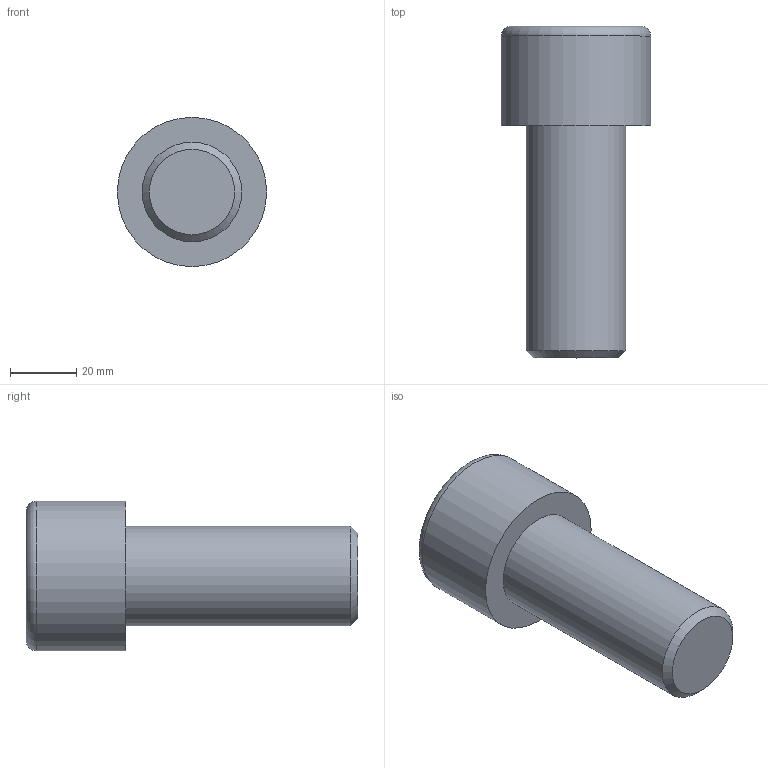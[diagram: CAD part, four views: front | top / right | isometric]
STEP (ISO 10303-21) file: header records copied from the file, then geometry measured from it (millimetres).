
FILE_DESCRIPTION(/* description */ (''),/* implementation_level */ '2;1');
FILE_NAME(/* name */ 'C:\Users\D\Documents\Inventor\各種小物\JIS\JIS B 1176 六角穴付きボルト\M30x70.stp',/* time_stamp */ '2022-05-09T19:01:58+09:00',/* author */ ('D'),/* organization */ (''),/* preprocessor_version */ 'ST-DEVELOPER v18',/* originating_system */ 'Autodesk Inventor 2020',/* authorisation */ '');
FILE_SCHEMA (('AUTOMOTIVE_DESIGN { 1 0 10303 214 3 1 1 }'));
Length unit declared in the file: millimetre
Products named in the file (1): M1.6x2.5
Bounding box: 45 x 100 x 45 mm (x, y, z)
Volume: 89018.8 mm3; surface area: 15003.9 mm2
Topology: 1 solids, 1 shells, 14 faces, 33 edges, 22 vertices
Faces by surface type: plane 9, cone 2, cylinder 2, torus 1
Full cylindrical faces by diameter (mm): 30 x1, 45 x1
Entity records: 435 total; most frequent: CARTESIAN_POINT 83, ORIENTED_EDGE 64, DIRECTION 64, EDGE_CURVE 32, AXIS2_PLACEMENT_3D 24, VERTEX_POINT 22, EDGE_LOOP 16, LINE 16
